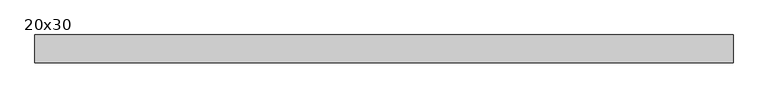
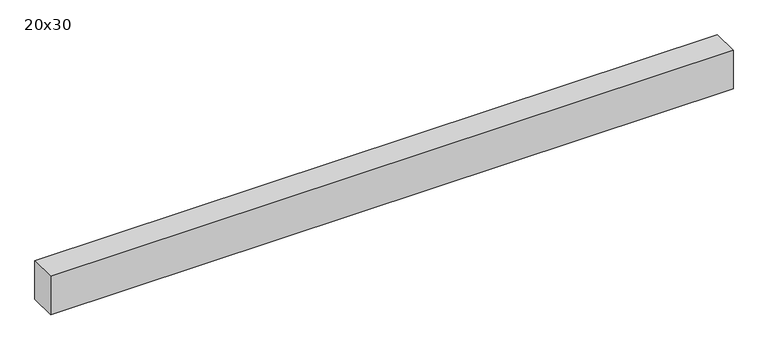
"""IFC4 building model written with IfcOpenShell, lengths in millimetres: beam geometry, C&L poutre béton gestion affichage par niveau : 20x30."""

from ifc_helpers import new_model, si_unit, frame, origin, place, context, project, spatial, polyline, outline, extrude, source, transform, mapped, element, save


def beam_20x30_ce380002(model_context):
    return source(origin(), model_context, "Body", "SweptSolid", [
        extrude(outline(polyline([(2515.7119643, 100.0), (2515.7119643, -100.0), (-2515.7119643, -100.0), (-2515.7119643, 100.0), (2515.7119643, 100.0)])), frame((0.0, 0.0, -150.0), z_axis=(0.0, 0.0, 1.0), x_axis=(1.0, 0.0, 0.0)), (0.0, 0.0, 1.0), 300.0),
    ])


if __name__ == "__main__":
    model = new_model("IFC4")
    model_context = context("Model", 3, world=origin())
    ifc_project = project(units=[si_unit("LENGTHUNIT", "METRE", prefix="MILLI")], contexts=[model_context])
    site = spatial("IfcSite", under=ifc_project)
    building = spatial("IfcBuilding", under=site)
    placement = place(None, origin())
    beam_20x30_shape = beam_20x30_ce380002(model_context)
    element("IfcBeam", 1, ObjectType="C&L poutre béton gestion affichage par niveau : 20x30", at=placement, inside=building, context=model_context, shape_type="MappedRepresentation", body=[
        mapped(beam_20x30_shape, transform((0.0, 0.0, 0.0), x_axis=(1.0, 0.0, 0.0), y_axis=(0.0, 1.0, 0.0), z_axis=(0.0, 0.0, 1.0))),
    ])
    save(model, "model.ifc")
